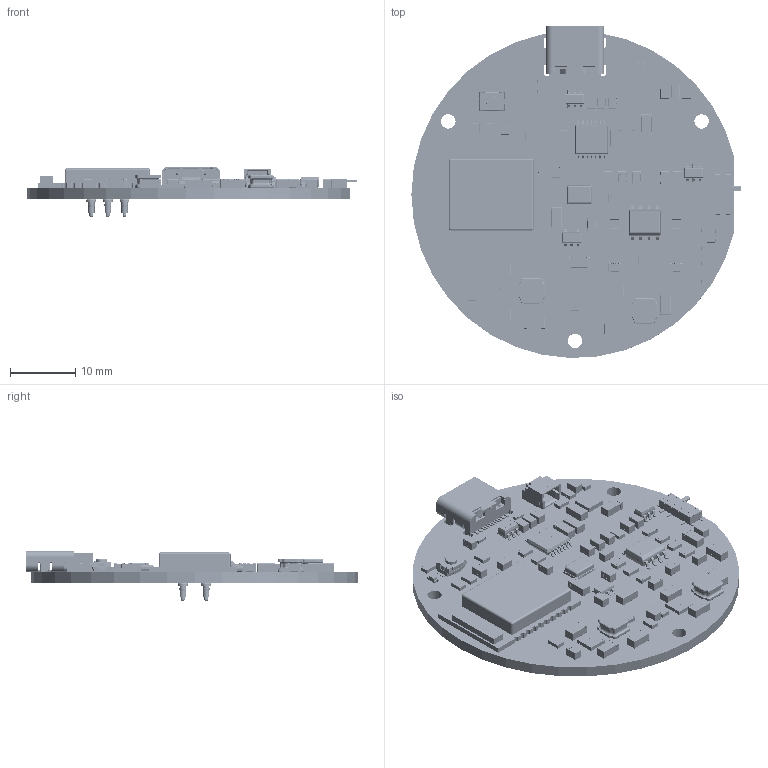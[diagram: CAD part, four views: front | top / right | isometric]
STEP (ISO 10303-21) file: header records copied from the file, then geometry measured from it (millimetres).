
FILE_DESCRIPTION(('Designed by EasyEDA Pro'),'2;1');
FILE_NAME('Open CASCADE Shape Model','2026-11-19T16:36:48',('Author'),( 'Open CASCADE'),'Open CASCADE STEP processor 7.8','Open CASCADE 7.8' ,'Unknown');
FILE_SCHEMA(('AUTOMOTIVE_DESIGN { 1 0 10303 214 1 1 1 1 }'));
Length unit declared in the file: millimetre
Products named in the file (111): EasyEDA PCB Model~s1ZZ; Board~s1ZZ; TopCopper~s1ZZ; BottomCopper~s1ZZ; TopSilkscreen~s1ZZ; BottomSilkscreen~s1ZZ; TopFpcStiffener~s1ZZ; BottomFpcStiffener~s1ZZ; C1206~C1206_L3.2-W1.6-H1.3~qOCT; C15~C1206~C1206_L3.2-W1.6-H1.3~83Ph; C17~C1206~C1206_L3.2-W1.6-H1.3~JXwg; C19~C1206~C1206_L3.2-W1.6-H1.3~ENnZ; C22~C1206~C1206_L3.2-W1.6-H1.3~QiYg; C24~C1206~C1206_L3.2-W1.6-H1.3~WG4V; C25~C1206~C1206_L3.2-W1.6-H1.3~Llat; C26~C1206~C1206_L3.2-W1.6-H1.3~9WOv; C28~C1206~C1206_L3.2-W1.6-H1.3~WCqV; C29~C1206~C1206_L3.2-W1.6-H1.3~Hhnr; C41~C1206~C1206_L3.2-W1.6-H1.3~wX7q; C42~C1206~C1206_L3.2-W1.6-H1.3~ayw5; C44~C1206~C1206_L3.2-W1.6-H1.3~1CXJ; C45~C1206~C1206_L3.2-W1.6-H1.3~PDdM; C46~C1206~C1206_L3.2-W1.6-H1.3~ZwxR; C0805~C0805_L2.0-W1.3-H1.3~0vcG; C6~C0805~C0805_L2.0-W1.3-H1.3~k3jS; C11~C0805~C0805_L2.0-W1.3-H1.3~Ubw6; C12~C0805~C0805_L2.0-W1.3-H1.3~zntl; C14~C0805~C0805_L2.0-W1.3-H1.3~oTxm; C16~C0805~C0805_L2.0-W1.3-H1.3~K7m5; C18~C0805~C0805_L2.0-W1.3-H1.3~P2wB; C20~C0805~C0805_L2.0-W1.3-H1.3~yZnw; C21~C0805~C0805_L2.0-W1.3-H1.3~tngf; C23~C0805~C0805_L2.0-W1.3-H1.3~BKsf; C27~C0805~C0805_L2.0-W1.3-H1.3~DI3x; C30~C0805~C0805_L2.0-W1.3-H1.3~ofwZ; C31~C0805~C0805_L2.0-W1.3-H1.3~4gCL; C32~C0805~C0805_L2.0-W1.3-H1.3~R8Xc; C33~C0805~C0805_L2.0-W1.3-H1.3~o8BN; C34~C0805~C0805_L2.0-W1.3-H1.3~59Lq; C35~C0805~C0805_L2.0-W1.3-H1.3~BFtJ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
Assembly tree (171 placements, depth 3):
  EasyEDA PCB Model~s1ZZ
    Board~s1ZZ
    TopCopper~s1ZZ
    BottomCopper~s1ZZ
    TopSilkscreen~s1ZZ
    BottomSilkscreen~s1ZZ
    TopFpcStiffener~s1ZZ
    BottomFpcStiffener~s1ZZ
    C15~C1206~C1206_L3.2-W1.6-H1.3~83Ph
      C1206~C1206_L3.2-W1.6-H1.3~qOCT
    C17~C1206~C1206_L3.2-W1.6-H1.3~JXwg
      C1206~C1206_L3.2-W1.6-H1.3~qOCT
    C19~C1206~C1206_L3.2-W1.6-H1.3~ENnZ
      C1206~C1206_L3.2-W1.6-H1.3~qOCT
    C22~C1206~C1206_L3.2-W1.6-H1.3~QiYg
      C1206~C1206_L3.2-W1.6-H1.3~qOCT
    C24~C1206~C1206_L3.2-W1.6-H1.3~WG4V
      C1206~C1206_L3.2-W1.6-H1.3~qOCT
    C25~C1206~C1206_L3.2-W1.6-H1.3~Llat
      C1206~C1206_L3.2-W1.6-H1.3~qOCT
    C26~C1206~C1206_L3.2-W1.6-H1.3~9WOv
      C1206~C1206_L3.2-W1.6-H1.3~qOCT
    C28~C1206~C1206_L3.2-W1.6-H1.3~WCqV
      C1206~C1206_L3.2-W1.6-H1.3~qOCT
    C29~C1206~C1206_L3.2-W1.6-H1.3~Hhnr
      C1206~C1206_L3.2-W1.6-H1.3~qOCT
    C41~C1206~C1206_L3.2-W1.6-H1.3~wX7q
      C1206~C1206_L3.2-W1.6-H1.3~qOCT
    C42~C1206~C1206_L3.2-W1.6-H1.3~ayw5
      C1206~C1206_L3.2-W1.6-H1.3~qOCT
    C44~C1206~C1206_L3.2-W1.6-H1.3~1CXJ
      C1206~C1206_L3.2-W1.6-H1.3~qOCT
    C45~C1206~C1206_L3.2-W1.6-H1.3~PDdM
      C1206~C1206_L3.2-W1.6-H1.3~qOCT
    C46~C1206~C1206_L3.2-W1.6-H1.3~ZwxR
      C1206~C1206_L3.2-W1.6-H1.3~qOCT
    C6~C0805~C0805_L2.0-W1.3-H1.3~k3jS
      C0805~C0805_L2.0-W1.3-H1.3~0vcG
    C11~C0805~C0805_L2.0-W1.3-H1.3~Ubw6
      C0805~C0805_L2.0-W1.3-H1.3~0vcG
    C12~C0805~C0805_L2.0-W1.3-H1.3~zntl
      C0805~C0805_L2.0-W1.3-H1.3~0vcG
    C14~C0805~C0805_L2.0-W1.3-H1.3~oTxm
      C0805~C0805_L2.0-W1.3-H1.3~0vcG
    C16~C0805~C0805_L2.0-W1.3-H1.3~K7m5
      C0805~C0805_L2.0-W1.3-H1.3~0vcG
    C18~C0805~C0805_L2.0-W1.3-H1.3~P2wB
      C0805~C0805_L2.0-W1.3-H1.3~0vcG
    C20~C0805~C0805_L2.0-W1.3-H1.3~yZnw
      C0805~C0805_L2.0-W1.3-H1.3~0vcG
    C21~C0805~C0805_L2.0-W1.3-H1.3~tngf
      C0805~C0805_L2.0-W1.3-H1.3~0vcG
    C23~C0805~C0805_L2.0-W1.3-H1.3~BKsf
      C0805~C0805_L2.0-W1.3-H1.3~0vcG
    C27~C0805~C0805_L2.0-W1.3-H1.3~DI3x
      C0805~C0805_L2.0-W1.3-H1.3~0vcG
    C30~C0805~C0805_L2.0-W1.3-H1.3~ofwZ
      C0805~C0805_L2.0-W1.3-H1.3~0vcG
    C31~C0805~C0805_L2.0-W1.3-H1.3~4gCL
      C0805~C0805_L2.0-W1.3-H1.3~0vcG
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Bounding box: 50.31 x 50.73 x 7.74 mm (x, y, z)
Volume: 4371.3 mm3; surface area: 7190.1 mm2
Topology: 324 solids, 324 shells, 28837 faces, 76299 edges, 49420 vertices
Faces by surface type: plane 16205, bspline 8707, cylinder 2844, sphere 505, torus 480, cone 96
Entity records: 445309 total; most frequent: CARTESIAN_POINT 107178, ORIENTED_EDGE 51180, DIRECTION 39040, EDGE_CURVE 25590, LINE 16778, VECTOR 16778, VERTEX_POINT 16325, AXIS2_PLACEMENT_3D 11131
